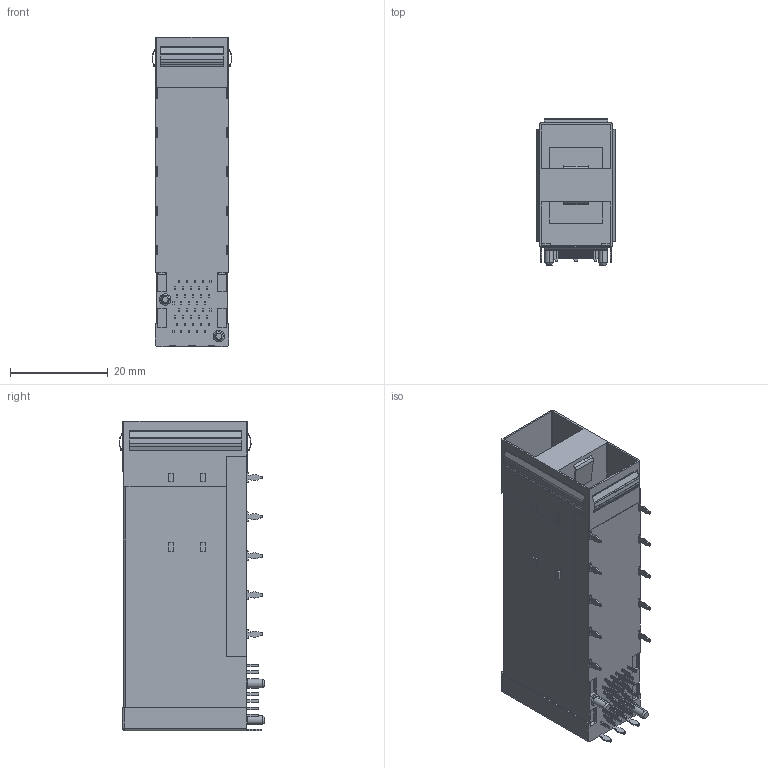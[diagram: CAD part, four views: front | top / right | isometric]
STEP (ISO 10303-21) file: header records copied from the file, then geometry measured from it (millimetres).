
FILE_DESCRIPTION (( 'STEP AP203' ), '1' );
FILE_NAME ('22100_SFP+ 2X1 拸絳嫖翐.STEP', '2024-06-05T00:24:21', ( '' ), ( '' ), 'SwSTEP 2.0', 'SolidWorks 2018', '' );
FILE_SCHEMA (( 'CONFIG_CONTROL_DESIGN' ));
Length unit declared in the file: millimetre
Products named in the file (1): 22100_SFP+ 2X1 拸絳嫖翐
Bounding box: 16.31 x 29.78 x 63.25 mm (x, y, z)
Volume: 12213.4 mm3; surface area: 11427 mm2
Topology: 1 solids, 1 shells, 684 faces, 1944 edges, 1326 vertices
Faces by surface type: plane 490, cylinder 184, cone 8, sphere 2
Entity records: 22331 total; most frequent: CARTESIAN_POINT 3953, ORIENTED_EDGE 3884, DIRECTION 3692, EDGE_CURVE 1942, VECTOR 1562, LINE 1562, VERTEX_POINT 1326, AXIS2_PLACEMENT_3D 1065
